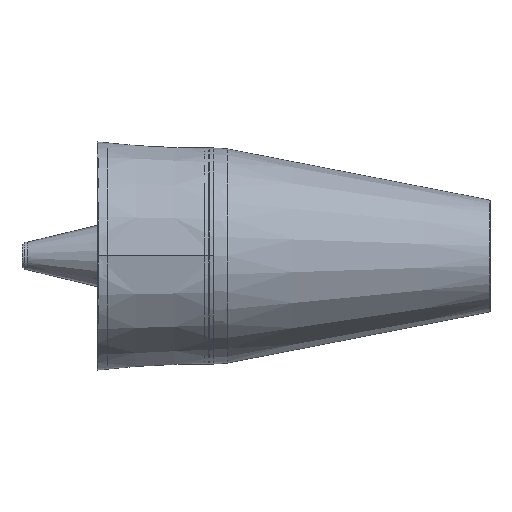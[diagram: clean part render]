
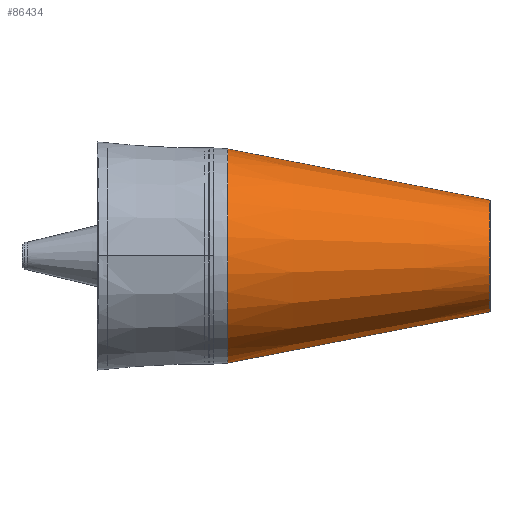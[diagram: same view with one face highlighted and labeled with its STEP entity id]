
A CAD part, top view. The second image highlights one B-rep face of the part: STEP entity #86434.
In plain terms, the highlighted conical face has half-angle 11.029 degrees and reference radius 76.962 mm.
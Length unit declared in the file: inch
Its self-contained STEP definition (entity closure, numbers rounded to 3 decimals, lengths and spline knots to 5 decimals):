
#739 = EDGE_CURVE ( 'NONE', #64355, #76758, #81013, .T. ) ;
#7521 = DIRECTION ( 'NONE',  ( -1., 0., 0. ) ) ;
#7860 = FACE_OUTER_BOUND ( 'NONE', #65314, .T. ) ;
#8505 = EDGE_CURVE ( 'NONE', #76758, #86896, #37308, .T. ) ;
#11666 = CARTESIAN_POINT ( 'NONE',  ( -10.82061, 0., 0. ) ) ;
#12978 = CIRCLE ( 'NONE', #25405, 5.8 ) ;
#13054 = ORIENTED_EDGE ( 'NONE', *, *, #16874, .F. ) ;
#14129 = DIRECTION ( 'NONE',  ( -0.982, -0.191, 0. ) ) ;
#16874 = EDGE_CURVE ( 'NONE', #68643, #86896, #12978, .T. ) ;
#21435 = CARTESIAN_POINT ( 'NONE',  ( -10.82061, -3.03, 0. ) ) ;
#25405 = AXIS2_PLACEMENT_3D ( 'NONE', #87287, #7521, #80469 ) ;
#31296 = CARTESIAN_POINT ( 'NONE',  ( -10.82061, 3.03, 0. ) ) ;
#34053 = DIRECTION ( 'NONE',  ( 0., -1., 0. ) ) ;
#35872 = CARTESIAN_POINT ( 'NONE',  ( -10.82061, 3.03, 0. ) ) ;
#36994 = VECTOR ( 'NONE', #60144, 39.37008 ) ;
#37308 = LINE ( 'NONE', #35872, #36994 ) ;
#44087 = VECTOR ( 'NONE', #14129, 39.37008 ) ;
#44799 = CARTESIAN_POINT ( 'NONE',  ( -25.03261, -5.8, 0. ) ) ;
#47202 = ORIENTED_EDGE ( 'NONE', *, *, #8505, .T. ) ;
#49114 = CARTESIAN_POINT ( 'NONE',  ( -10.82061, 0., 0. ) ) ;
#54466 = DIRECTION ( 'NONE',  ( -1., 0., 0. ) ) ;
#56404 = DIRECTION ( 'NONE',  ( 0., -1., 0. ) ) ;
#56808 = CARTESIAN_POINT ( 'NONE',  ( -25.03261, 5.8, 0. ) ) ;
#57676 = AXIS2_PLACEMENT_3D ( 'NONE', #49114, #79248, #56404 ) ;
#58648 = ORIENTED_EDGE ( 'NONE', *, *, #72929, .F. ) ;
#60144 = DIRECTION ( 'NONE',  ( -0.982, 0.191, 0. ) ) ;
#60227 = ORIENTED_EDGE ( 'NONE', *, *, #739, .T. ) ;
#64355 = VERTEX_POINT ( 'NONE', #77940 ) ;
#65314 = EDGE_LOOP ( 'NONE', ( #60227, #47202, #13054, #58648 ) ) ;
#68643 = VERTEX_POINT ( 'NONE', #44799 ) ;
#69299 = AXIS2_PLACEMENT_3D ( 'NONE', #11666, #54466, #34053 ) ;
#72929 = EDGE_CURVE ( 'NONE', #64355, #68643, #87098, .T. ) ;
#76758 = VERTEX_POINT ( 'NONE', #31296 ) ;
#77940 = CARTESIAN_POINT ( 'NONE',  ( -10.82061, -3.03, 0. ) ) ;
#79248 = DIRECTION ( 'NONE',  ( -1., 0., 0. ) ) ;
#80469 = DIRECTION ( 'NONE',  ( 0., -1., 0. ) ) ;
#81013 = CIRCLE ( 'NONE', #57676, 3.03 ) ;
#86430 = CONICAL_SURFACE ( 'NONE', #69299, 3.03, 0.192 ) ;
#86434 = ADVANCED_FACE ( 'NONE', ( #7860 ), #86430, .T. ) ;
#86896 = VERTEX_POINT ( 'NONE', #56808 ) ;
#87098 = LINE ( 'NONE', #21435, #44087 ) ;
#87287 = CARTESIAN_POINT ( 'NONE',  ( -25.03261, 0., 0. ) ) ;
